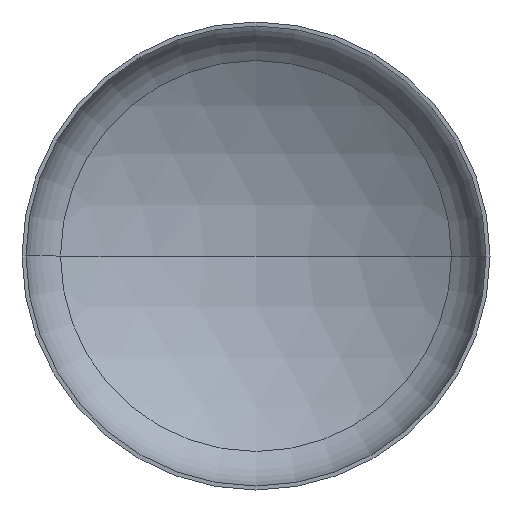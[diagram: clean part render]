
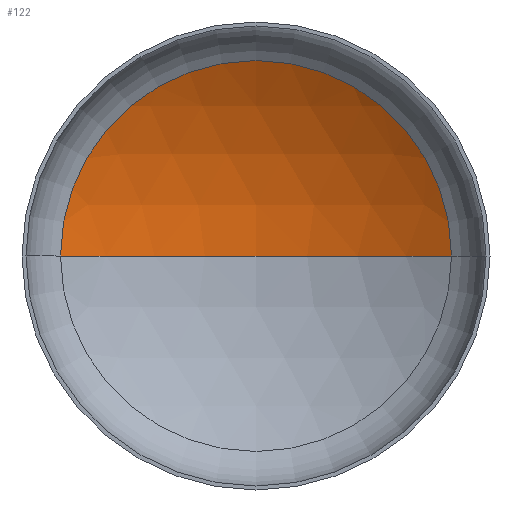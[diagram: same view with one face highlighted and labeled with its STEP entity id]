
A CAD part, front view. The second image highlights one B-rep face of the part: STEP entity #122.
In plain terms, the highlighted spherical face has radius 2720 mm.
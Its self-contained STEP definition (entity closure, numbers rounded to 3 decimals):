
#12 = AXIS2_PLACEMENT_3D ( 'NONE', #358, #135, #110 ) ;
#13 = AXIS2_PLACEMENT_3D ( 'NONE', #104, #102, #103 ) ;
#33 = AXIS2_PLACEMENT_3D ( 'NONE', #136, #241, #140 ) ;
#37 = AXIS2_PLACEMENT_3D ( 'NONE', #254, #185, #141 ) ;
#68 = EDGE_CURVE ( 'NONE', #318, #111, #132, .T. ) ;
#77 = VERTEX_POINT ( 'NONE', #208 ) ;
#82 = CIRCLE ( 'NONE', #13, 2720. ) ;
#89 = EDGE_LOOP ( 'NONE', ( #350, #177, #267 ) ) ;
#102 = DIRECTION ( 'NONE',  ( 0., 0., -1. ) ) ;
#103 = DIRECTION ( 'NONE',  ( -1., 0., 0. ) ) ;
#104 = CARTESIAN_POINT ( 'NONE',  ( 0., -1782.087, 0. ) ) ;
#110 = DIRECTION ( 'NONE',  ( 1., 0., 0. ) ) ;
#111 = VERTEX_POINT ( 'NONE', #164 ) ;
#112 = CARTESIAN_POINT ( 'NONE',  ( 1420.1, 537.766, 0. ) ) ;
#122 = ADVANCED_FACE ( 'NONE', ( #355 ), #347, .F. ) ;
#132 = CIRCLE ( 'NONE', #37, 1420.1 ) ;
#135 = DIRECTION ( 'NONE',  ( 0., 0., 1. ) ) ;
#136 = CARTESIAN_POINT ( 'NONE',  ( 0., -1782.087, 0. ) ) ;
#140 = DIRECTION ( 'NONE',  ( -1., 0., 0. ) ) ;
#141 = DIRECTION ( 'NONE',  ( 1., 0., 0. ) ) ;
#164 = CARTESIAN_POINT ( 'NONE',  ( -1420.1, 537.766, 0. ) ) ;
#177 = ORIENTED_EDGE ( 'NONE', *, *, #333, .T. ) ;
#185 = DIRECTION ( 'NONE',  ( 0., -1., 0. ) ) ;
#208 = CARTESIAN_POINT ( 'NONE',  ( 0., 937.913, 0. ) ) ;
#241 = DIRECTION ( 'NONE',  ( 0., 0., -1. ) ) ;
#254 = CARTESIAN_POINT ( 'NONE',  ( 0., 537.766, 0. ) ) ;
#267 = ORIENTED_EDGE ( 'NONE', *, *, #68, .T. ) ;
#308 = CIRCLE ( 'NONE', #12, 2720. ) ;
#318 = VERTEX_POINT ( 'NONE', #112 ) ;
#333 = EDGE_CURVE ( 'NONE', #77, #318, #82, .T. ) ;
#341 = EDGE_CURVE ( 'NONE', #77, #111, #308, .T. ) ;
#347 = SPHERICAL_SURFACE ( 'NONE', #33, 2720. ) ;
#350 = ORIENTED_EDGE ( 'NONE', *, *, #341, .F. ) ;
#355 = FACE_OUTER_BOUND ( 'NONE', #89, .T. ) ;
#358 = CARTESIAN_POINT ( 'NONE',  ( 0., -1782.087, 0. ) ) ;
